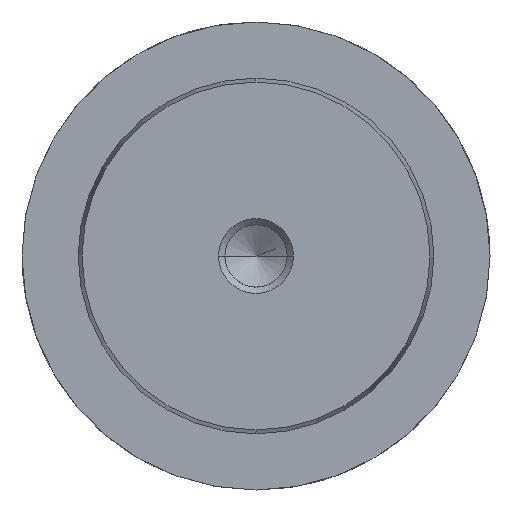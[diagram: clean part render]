
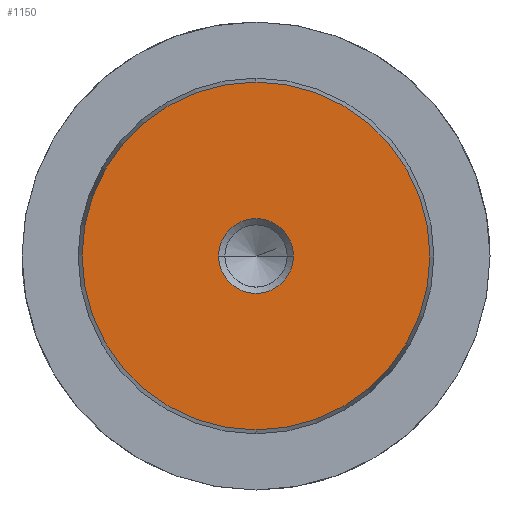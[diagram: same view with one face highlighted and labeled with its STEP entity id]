
A CAD part, left-side view. The second image highlights one B-rep face of the part: STEP entity #1150.
In plain terms, the highlighted planar face has unit normal (-1, 0, 0).
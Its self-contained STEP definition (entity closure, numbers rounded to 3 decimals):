
#1064=CARTESIAN_POINT('Vertex',(0.,0.,-18.578)) ;
#1067=CARTESIAN_POINT('Axis2P3D Location',(0.,0.,0.)) ;
#1071=CARTESIAN_POINT('Vertex',(0.,18.578,0.)) ;
#1074=CARTESIAN_POINT('Axis2P3D Location',(0.,0.,0.)) ;
#1078=CARTESIAN_POINT('Vertex',(0.,0.,18.578)) ;
#1100=CARTESIAN_POINT('Axis2P3D Location',(0.,0.,0.)) ;
#1104=CARTESIAN_POINT('Vertex',(0.,-18.578,0.)) ;
#1107=CARTESIAN_POINT('Axis2P3D Location',(0.,0.,0.)) ;
#1121=CARTESIAN_POINT('Axis2P3D Location',(0.,0.,0.)) ;
#1132=CARTESIAN_POINT('Axis2P3D Location',(0.,0.,0.)) ;
#1136=CARTESIAN_POINT('Vertex',(0.,4.,0.)) ;
#1138=CARTESIAN_POINT('Vertex',(0.,-4.,0.)) ;
#1141=CARTESIAN_POINT('Axis2P3D Location',(0.,0.,0.)) ;
#1068=DIRECTION('Axis2P3D Direction',(1.,0.,-0.)) ;
#1075=DIRECTION('Axis2P3D Direction',(1.,0.,-0.)) ;
#1101=DIRECTION('Axis2P3D Direction',(1.,0.,-0.)) ;
#1108=DIRECTION('Axis2P3D Direction',(1.,0.,-0.)) ;
#1122=DIRECTION('Axis2P3D Direction',(1.,0.,-0.)) ;
#1123=DIRECTION('Axis2P3D XDirection',(-0.,0.,-1.)) ;
#1133=DIRECTION('Axis2P3D Direction',(1.,0.,-0.)) ;
#1142=DIRECTION('Axis2P3D Direction',(1.,0.,-0.)) ;
#1069=AXIS2_PLACEMENT_3D('Circle Axis2P3D',#1067,#1068,$) ;
#1076=AXIS2_PLACEMENT_3D('Circle Axis2P3D',#1074,#1075,$) ;
#1102=AXIS2_PLACEMENT_3D('Circle Axis2P3D',#1100,#1101,$) ;
#1109=AXIS2_PLACEMENT_3D('Circle Axis2P3D',#1107,#1108,$) ;
#1124=AXIS2_PLACEMENT_3D('Plane Axis2P3D',#1121,#1122,#1123) ;
#1134=AXIS2_PLACEMENT_3D('Circle Axis2P3D',#1132,#1133,$) ;
#1143=AXIS2_PLACEMENT_3D('Circle Axis2P3D',#1141,#1142,$) ;
#1127=ORIENTED_EDGE('',*,*,#1073,.F.) ;
#1128=ORIENTED_EDGE('',*,*,#1111,.F.) ;
#1129=ORIENTED_EDGE('',*,*,#1106,.F.) ;
#1130=ORIENTED_EDGE('',*,*,#1080,.F.) ;
#1147=ORIENTED_EDGE('',*,*,#1140,.T.) ;
#1148=ORIENTED_EDGE('',*,*,#1145,.T.) ;
#1149=FACE_BOUND('',#1146,.T.) ;
#1150=ADVANCED_FACE('718-38x180',(#1131,#1149),#1125,.F.) ;
#1070=CIRCLE('generated circle',#1069,18.578) ;
#1077=CIRCLE('generated circle',#1076,18.578) ;
#1103=CIRCLE('generated circle',#1102,18.578) ;
#1110=CIRCLE('generated circle',#1109,18.578) ;
#1135=CIRCLE('generated circle',#1134,4.) ;
#1144=CIRCLE('generated circle',#1143,4.) ;
#1073=EDGE_CURVE('',#1065,#1072,#1070,.T.) ;
#1080=EDGE_CURVE('',#1072,#1079,#1077,.T.) ;
#1106=EDGE_CURVE('',#1079,#1105,#1103,.T.) ;
#1111=EDGE_CURVE('',#1105,#1065,#1110,.T.) ;
#1140=EDGE_CURVE('',#1137,#1139,#1135,.T.) ;
#1145=EDGE_CURVE('',#1139,#1137,#1144,.T.) ;
#1126=EDGE_LOOP('',(#1127,#1128,#1129,#1130)) ;
#1146=EDGE_LOOP('',(#1147,#1148)) ;
#1131=FACE_OUTER_BOUND('',#1126,.T.) ;
#1125=PLANE('Plane',#1124) ;
#1065=VERTEX_POINT('',#1064) ;
#1072=VERTEX_POINT('',#1071) ;
#1079=VERTEX_POINT('',#1078) ;
#1105=VERTEX_POINT('',#1104) ;
#1137=VERTEX_POINT('',#1136) ;
#1139=VERTEX_POINT('',#1138) ;
